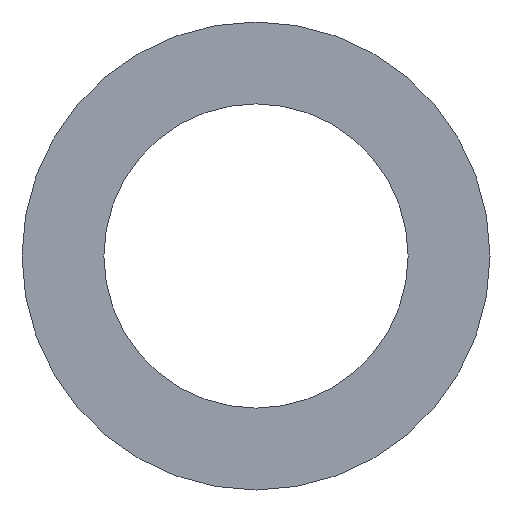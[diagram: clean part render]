
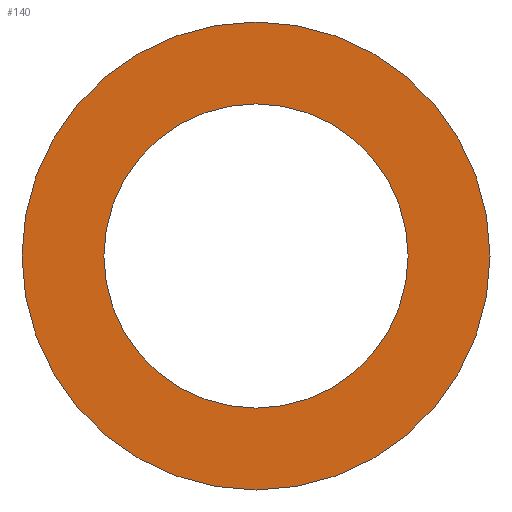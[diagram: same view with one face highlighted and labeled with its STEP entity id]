
A CAD part, front view. The second image highlights one B-rep face of the part: STEP entity #140.
In plain terms, the highlighted planar face has unit normal (0, -1, 0).
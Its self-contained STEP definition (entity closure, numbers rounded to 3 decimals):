
#31 = CYLINDRICAL_SURFACE('',#32,12.8);
#32 = AXIS2_PLACEMENT_3D('',#33,#34,#35);
#33 = CARTESIAN_POINT('',(158.477,27.,361.469));
#34 = DIRECTION('',(0.,1.,0.));
#35 = DIRECTION('',(0.,-0.,1.));
#56 = VERTEX_POINT('',#57);
#57 = CARTESIAN_POINT('',(158.477,27.,374.269));
#78 = EDGE_CURVE('',#56,#56,#79,.T.);
#79 = SURFACE_CURVE('',#80,(#85,#92),.PCURVE_S1.);
#80 = CIRCLE('',#81,12.8);
#81 = AXIS2_PLACEMENT_3D('',#82,#83,#84);
#82 = CARTESIAN_POINT('',(158.477,27.,361.469));
#83 = DIRECTION('',(0.,1.,0.));
#84 = DIRECTION('',(0.,-0.,1.));
#85 = PCURVE('',#31,#86);
#86 = DEFINITIONAL_REPRESENTATION('',(#87),#91);
#87 = LINE('',#88,#89);
#88 = CARTESIAN_POINT('',(0.,0.));
#89 = VECTOR('',#90,1.);
#90 = DIRECTION('',(1.,0.));
#91 = ( GEOMETRIC_REPRESENTATION_CONTEXT(2) 
PARAMETRIC_REPRESENTATION_CONTEXT() REPRESENTATION_CONTEXT('2D SPACE',''
  ) );
#92 = PCURVE('',#93,#98);
#93 = PLANE('',#94);
#94 = AXIS2_PLACEMENT_3D('',#95,#96,#97);
#95 = CARTESIAN_POINT('',(158.477,27.,361.469));
#96 = DIRECTION('',(0.,1.,0.));
#97 = DIRECTION('',(0.,-0.,1.));
#98 = DEFINITIONAL_REPRESENTATION('',(#99),#103);
#99 = CIRCLE('',#100,12.8);
#100 = AXIS2_PLACEMENT_2D('',#101,#102);
#101 = CARTESIAN_POINT('',(0.,0.));
#102 = DIRECTION('',(1.,0.));
#103 = ( GEOMETRIC_REPRESENTATION_CONTEXT(2) 
PARAMETRIC_REPRESENTATION_CONTEXT() REPRESENTATION_CONTEXT('2D SPACE',''
  ) );
#129 = CYLINDRICAL_SURFACE('',#130,8.32);
#130 = AXIS2_PLACEMENT_3D('',#131,#132,#133);
#131 = CARTESIAN_POINT('',(158.477,26.5,361.469));
#132 = DIRECTION('',(0.,1.,0.));
#133 = DIRECTION('',(0.,-0.,1.));
#140 = ADVANCED_FACE('',(#141,#144),#93,.F.);
#141 = FACE_BOUND('',#142,.F.);
#142 = EDGE_LOOP('',(#143));
#143 = ORIENTED_EDGE('',*,*,#78,.T.);
#144 = FACE_BOUND('',#145,.F.);
#145 = EDGE_LOOP('',(#146));
#146 = ORIENTED_EDGE('',*,*,#147,.F.);
#147 = EDGE_CURVE('',#148,#148,#150,.T.);
#148 = VERTEX_POINT('',#149);
#149 = CARTESIAN_POINT('',(158.477,27.,369.789));
#150 = SURFACE_CURVE('',#151,(#156,#163),.PCURVE_S1.);
#151 = CIRCLE('',#152,8.32);
#152 = AXIS2_PLACEMENT_3D('',#153,#154,#155);
#153 = CARTESIAN_POINT('',(158.477,27.,361.469));
#154 = DIRECTION('',(0.,1.,0.));
#155 = DIRECTION('',(0.,-0.,1.));
#156 = PCURVE('',#93,#157);
#157 = DEFINITIONAL_REPRESENTATION('',(#158),#162);
#158 = CIRCLE('',#159,8.32);
#159 = AXIS2_PLACEMENT_2D('',#160,#161);
#160 = CARTESIAN_POINT('',(0.,0.));
#161 = DIRECTION('',(1.,0.));
#162 = ( GEOMETRIC_REPRESENTATION_CONTEXT(2) 
PARAMETRIC_REPRESENTATION_CONTEXT() REPRESENTATION_CONTEXT('2D SPACE',''
  ) );
#163 = PCURVE('',#129,#164);
#164 = DEFINITIONAL_REPRESENTATION('',(#165),#169);
#165 = LINE('',#166,#167);
#166 = CARTESIAN_POINT('',(0.,0.5));
#167 = VECTOR('',#168,1.);
#168 = DIRECTION('',(1.,0.));
#169 = ( GEOMETRIC_REPRESENTATION_CONTEXT(2) 
PARAMETRIC_REPRESENTATION_CONTEXT() REPRESENTATION_CONTEXT('2D SPACE',''
  ) );
